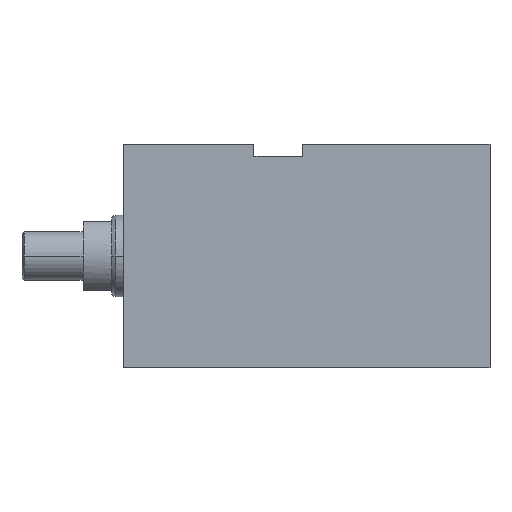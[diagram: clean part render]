
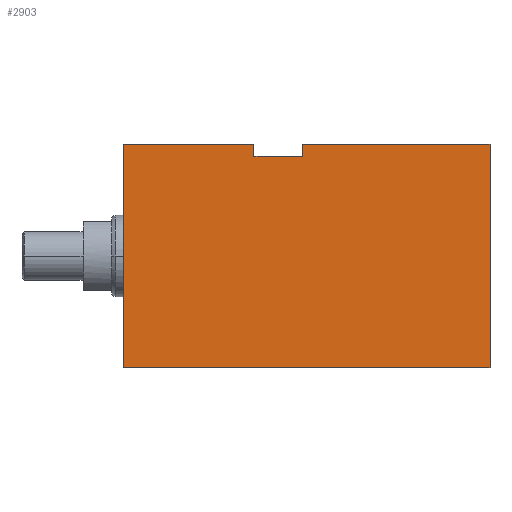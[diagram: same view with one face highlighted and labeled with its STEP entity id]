
A CAD part, left-side view. The second image highlights one B-rep face of the part: STEP entity #2903.
In plain terms, the highlighted planar face has unit normal (-1, 0, 0).
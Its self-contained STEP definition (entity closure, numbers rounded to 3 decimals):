
#164 = ORIENTED_EDGE ( 'NONE', *, *, #1272, .F. ) ;
#168 = DIRECTION ( 'NONE',  ( 0., 0., 1. ) ) ;
#180 = CARTESIAN_POINT ( 'NONE',  ( -37.5, 90., -27.5 ) ) ;
#198 = LINE ( 'NONE', #1418, #1298 ) ;
#240 = ORIENTED_EDGE ( 'NONE', *, *, #2561, .F. ) ;
#314 = CARTESIAN_POINT ( 'NONE',  ( -37.5, 65., -27.5 ) ) ;
#346 = VECTOR ( 'NONE', #2585, 1000. ) ;
#350 = CARTESIAN_POINT ( 'NONE',  ( -37.5, 58., 24.5 ) ) ;
#385 = CARTESIAN_POINT ( 'NONE',  ( -37.5, 65., 27.5 ) ) ;
#423 = DIRECTION ( 'NONE',  ( 0., -1., 0. ) ) ;
#445 = EDGE_CURVE ( 'NONE', #1074, #1519, #1137, .T. ) ;
#477 = VECTOR ( 'NONE', #650, 1000. ) ;
#545 = LINE ( 'NONE', #1746, #477 ) ;
#611 = DIRECTION ( 'NONE',  ( 0., 0., 1. ) ) ;
#620 = ORIENTED_EDGE ( 'NONE', *, *, #1563, .T. ) ;
#639 = CARTESIAN_POINT ( 'NONE',  ( -37.5, 0., 27.5 ) ) ;
#648 = FACE_OUTER_BOUND ( 'NONE', #1876, .T. ) ;
#650 = DIRECTION ( 'NONE',  ( 0., 0., 1. ) ) ;
#677 = EDGE_CURVE ( 'NONE', #1597, #1017, #1371, .T. ) ;
#693 = ORIENTED_EDGE ( 'NONE', *, *, #1364, .F. ) ;
#768 = ORIENTED_EDGE ( 'NONE', *, *, #2472, .T. ) ;
#776 = DIRECTION ( 'NONE',  ( 0., 0., -1. ) ) ;
#845 = ORIENTED_EDGE ( 'NONE', *, *, #1326, .F. ) ;
#875 = LINE ( 'NONE', #385, #1368 ) ;
#882 = VERTEX_POINT ( 'NONE', #1852 ) ;
#917 = DIRECTION ( 'NONE',  ( 0., -1., 0. ) ) ;
#1017 = VERTEX_POINT ( 'NONE', #2812 ) ;
#1062 = CARTESIAN_POINT ( 'NONE',  ( -37.5, 58., 24.5 ) ) ;
#1074 = VERTEX_POINT ( 'NONE', #350 ) ;
#1097 = CARTESIAN_POINT ( 'NONE',  ( -37.5, 46., 24.5 ) ) ;
#1137 = LINE ( 'NONE', #1062, #2323 ) ;
#1228 = VECTOR ( 'NONE', #168, 1000. ) ;
#1272 = EDGE_CURVE ( 'NONE', #882, #2186, #875, .T. ) ;
#1298 = VECTOR ( 'NONE', #1890, 1000. ) ;
#1326 = EDGE_CURVE ( 'NONE', #2722, #2545, #198, .T. ) ;
#1337 = LINE ( 'NONE', #2228, #2566 ) ;
#1364 = EDGE_CURVE ( 'NONE', #1597, #882, #2528, .T. ) ;
#1368 = VECTOR ( 'NONE', #423, 1000. ) ;
#1371 = LINE ( 'NONE', #2154, #1933 ) ;
#1418 = CARTESIAN_POINT ( 'NONE',  ( -37.5, 65., 27.5 ) ) ;
#1519 = VERTEX_POINT ( 'NONE', #1097 ) ;
#1523 = LINE ( 'NONE', #2473, #346 ) ;
#1563 = EDGE_CURVE ( 'NONE', #1017, #2545, #1523, .T. ) ;
#1597 = VERTEX_POINT ( 'NONE', #2502 ) ;
#1746 = CARTESIAN_POINT ( 'NONE',  ( -37.5, 46., 24.5 ) ) ;
#1759 = AXIS2_PLACEMENT_3D ( 'NONE', #314, #2136, #776 ) ;
#1852 = CARTESIAN_POINT ( 'NONE',  ( -37.5, 90., 27.5 ) ) ;
#1876 = EDGE_LOOP ( 'NONE', ( #845, #240, #2638, #768, #164, #693, #2486, #620 ) ) ;
#1890 = DIRECTION ( 'NONE',  ( 0., -1., 0. ) ) ;
#1933 = VECTOR ( 'NONE', #917, 1000. ) ;
#2136 = DIRECTION ( 'NONE',  ( 1., 0., 0. ) ) ;
#2154 = CARTESIAN_POINT ( 'NONE',  ( -37.5, 65., -27.5 ) ) ;
#2186 = VERTEX_POINT ( 'NONE', #2976 ) ;
#2228 = CARTESIAN_POINT ( 'NONE',  ( -37.5, 58., 24.5 ) ) ;
#2323 = VECTOR ( 'NONE', #2475, 1000. ) ;
#2472 = EDGE_CURVE ( 'NONE', #1074, #2186, #1337, .T. ) ;
#2473 = CARTESIAN_POINT ( 'NONE',  ( -37.5, 0., -27.5 ) ) ;
#2475 = DIRECTION ( 'NONE',  ( 0., -1., 0. ) ) ;
#2486 = ORIENTED_EDGE ( 'NONE', *, *, #677, .T. ) ;
#2502 = CARTESIAN_POINT ( 'NONE',  ( -37.5, 90., -27.5 ) ) ;
#2528 = LINE ( 'NONE', #180, #1228 ) ;
#2545 = VERTEX_POINT ( 'NONE', #639 ) ;
#2561 = EDGE_CURVE ( 'NONE', #1519, #2722, #545, .T. ) ;
#2566 = VECTOR ( 'NONE', #611, 1000. ) ;
#2580 = CARTESIAN_POINT ( 'NONE',  ( -37.5, 46., 27.5 ) ) ;
#2585 = DIRECTION ( 'NONE',  ( 0., 0., 1. ) ) ;
#2638 = ORIENTED_EDGE ( 'NONE', *, *, #445, .F. ) ;
#2722 = VERTEX_POINT ( 'NONE', #2580 ) ;
#2812 = CARTESIAN_POINT ( 'NONE',  ( -37.5, 0., -27.5 ) ) ;
#2871 = PLANE ( 'NONE',  #1759 ) ;
#2903 = ADVANCED_FACE ( 'NONE', ( #648 ), #2871, .F. ) ;
#2976 = CARTESIAN_POINT ( 'NONE',  ( -37.5, 58., 27.5 ) ) ;
